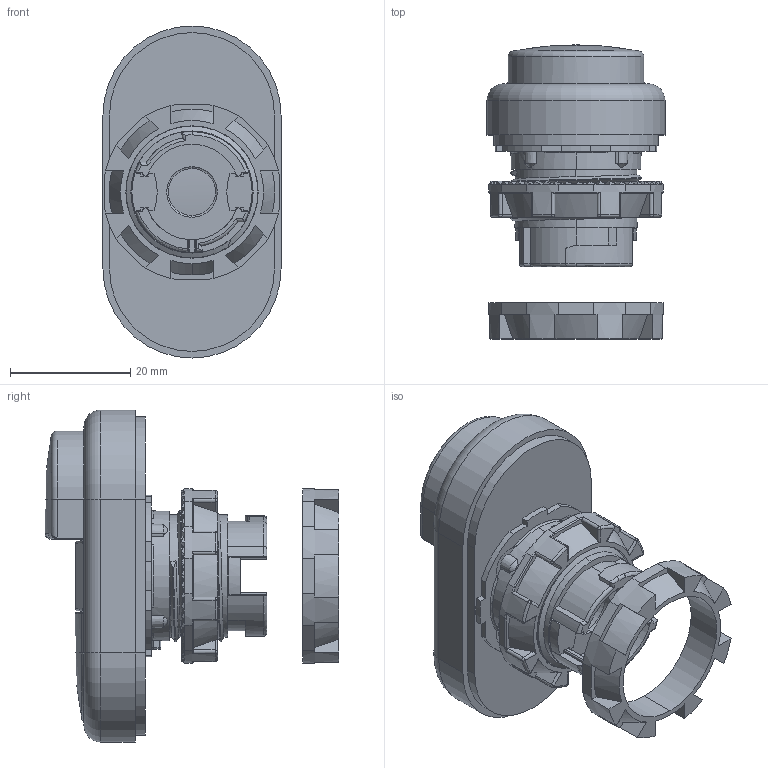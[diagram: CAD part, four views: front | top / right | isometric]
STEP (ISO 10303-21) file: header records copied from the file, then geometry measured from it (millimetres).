
FILE_DESCRIPTION (( 'STEP AP203' ), '1' );
FILE_NAME ('ZF_STEP_E2_xPDSxxxxxx_A10.step', '2011-03-01T11:13:20', ( 'Pizzato Elettrica' ), ( '' ), 'SwSTEP 2.0', 'SolidWorks 2010', '' );
FILE_SCHEMA (( 'CONFIG_CONTROL_DESIGN' ));
Length unit declared in the file: millimetre
Products named in the file (15): ZF_STEP_E2_xPDSxxxxxx_A10; E2 1PDSL10423_1) Partenza; 23101_23101; 21018_21018; 23102_23102; 23106_23116; 23106_23106; 23105_23105; 23107_23107; 23103_23103; 23117_23117; 23112_8.6; 23112_3.3; 21008_21008; ZF_STEP_VE_GF121A_A10_21008
Assembly tree (16 placements, depth 3):
  ZF_STEP_E2_xPDSxxxxxx_A10
    E2 1PDSL10423_1) Partenza
      23112_8.6
      23105_23105  x2
      23112_3.3
      23106_23106
      21008_21008
      23107_23107
      23103_23103  x2
      23102_23102
      23117_23117
      21018_21018
      23101_23101
      23106_23116
    ZF_STEP_VE_GF121A_A10_21008
Bounding box: 29.6 x 48.88 x 55.2 mm (x, y, z)
Volume: 14902 mm3; surface area: 24407.4 mm2
Topology: 16 solids, 16 shells, 1785 faces, 4734 edges, 2941 vertices
Faces by surface type: plane 676, cylinder 640, torus 202, bspline 125, cone 79, sphere 63
Entity records: 63483 total; most frequent: CARTESIAN_POINT 20922, ORIENTED_EDGE 8936, DIRECTION 8480, EDGE_CURVE 4468, AXIS2_PLACEMENT_3D 3264, VERTEX_POINT 2815, LINE 1952, VECTOR 1952
